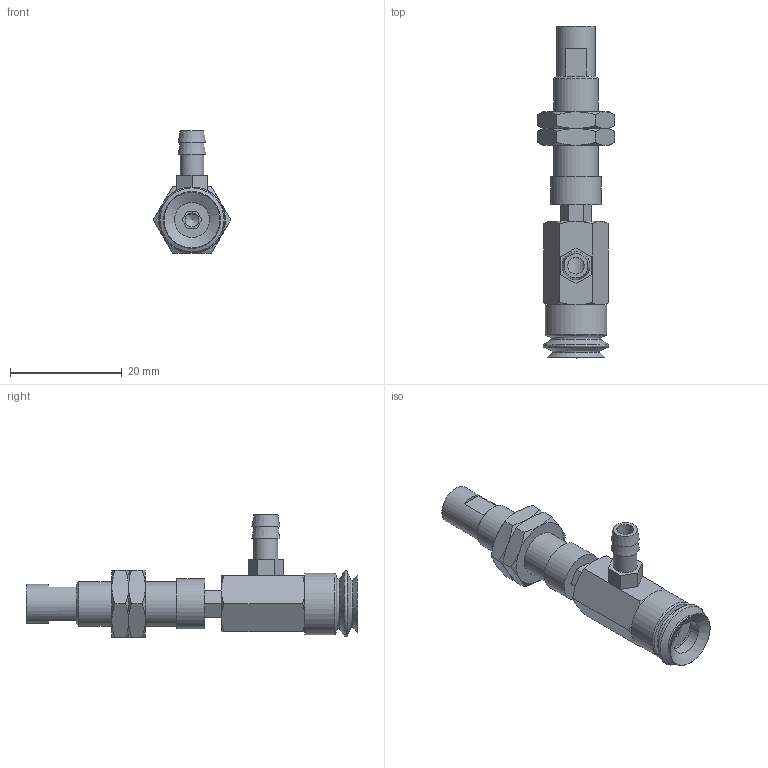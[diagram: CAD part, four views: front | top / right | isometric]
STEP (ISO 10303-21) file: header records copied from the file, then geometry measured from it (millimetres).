
FILE_DESCRIPTION(('STEP AP203'),'1');
FILE_NAME('-T.stp','2025-04-24T06:11:22',(' '),(' '),'Spatial InterOp 3D',' ',' ');
FILE_SCHEMA(('CONFIG_CONTROL_DESIGN'));
Length unit declared in the file: millimetre
Products named in the file (8): BNABPJYH-10-3-※-T; Adapter-10-NAPJ; CONNECTOR_H-10-3; NAPJH-10-3-NUT; NAPJTH-10-3-FBODY; NAPJTH-10-3-MBODY; BPJG-10-※; T
Assembly tree (8 placements, depth 2):
  BNABPJYH-10-3-※-T
    Adapter-10-NAPJ
    CONNECTOR_H-10-3
    NAPJH-10-3-NUT  x2
    NAPJTH-10-3-FBODY
    NAPJTH-10-3-MBODY
    BPJG-10-※
    T
Bounding box: 13.86 x 59.5 x 22 mm (x, y, z)
Volume: 4093.1 mm3; surface area: 4873.8 mm2
Topology: 8 solids, 8 shells, 167 faces, 362 edges, 223 vertices
Faces by surface type: plane 82, cone 59, cylinder 19, torus 7
Full cylindrical faces by diameter (mm): 2.5 x1, 3 x1, 4.134 x3, 4.3 x1, 4.6 x1, 5 x3, 6.266 x1, 7 x1, 7.188 x2, 7.8 x1, 8 x2, 9 x1, 11 x1
Entity records: 4382 total; most frequent: CARTESIAN_POINT 1082, DIRECTION 606, ORIENTED_EDGE 516, EDGE_CURVE 258, AXIS2_PLACEMENT_3D 247, EDGE_LOOP 212, VERTEX_POINT 185, FACE_OUTER_BOUND 169
